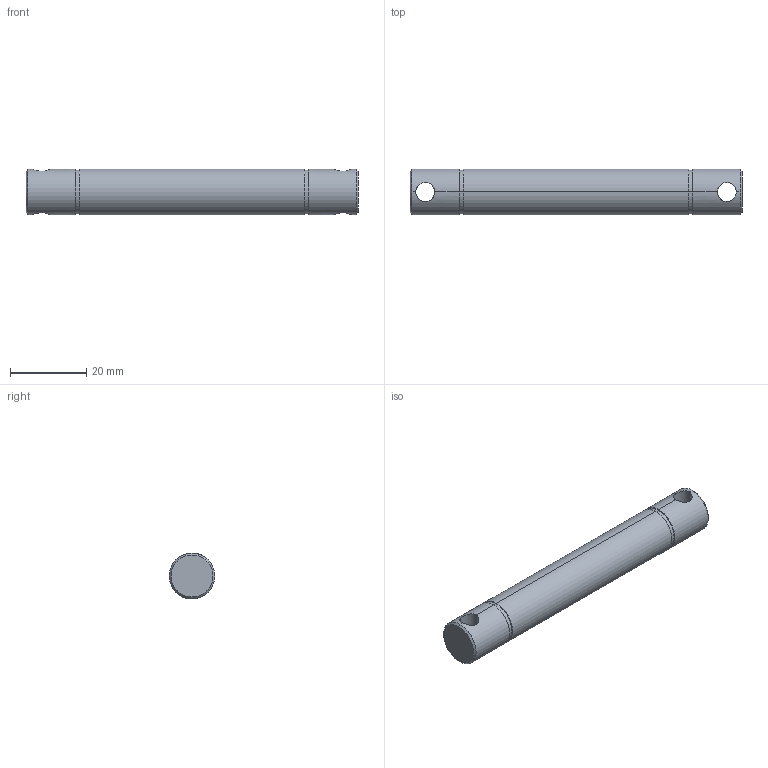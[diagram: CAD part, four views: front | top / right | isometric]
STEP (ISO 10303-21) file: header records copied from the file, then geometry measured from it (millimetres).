
FILE_DESCRIPTION (( 'STEP AP214' ), '1' );
FILE_NAME ('084.030.215.STEP', '2021-02-05T15:55:44', ( '' ), ( '' ), 'SwSTEP 2.0', 'SolidWorks 2018', '' );
FILE_SCHEMA (( 'AUTOMOTIVE_DESIGN' ));
Length unit declared in the file: millimetre
Products named in the file (1): 084.030.215
Bounding box: 87 x 12 x 12 mm (x, y, z)
Volume: 9349.2 mm3; surface area: 3796.4 mm2
Topology: 1 solids, 1 shells, 24 faces, 54 edges, 32 vertices
Faces by surface type: cylinder 14, plane 6, cone 4
Entity records: 976 total; most frequent: CARTESIAN_POINT 351, DIRECTION 120, ORIENTED_EDGE 108, EDGE_CURVE 54, AXIS2_PLACEMENT_3D 49, VERTEX_POINT 32, EDGE_LOOP 28, CIRCLE 24
